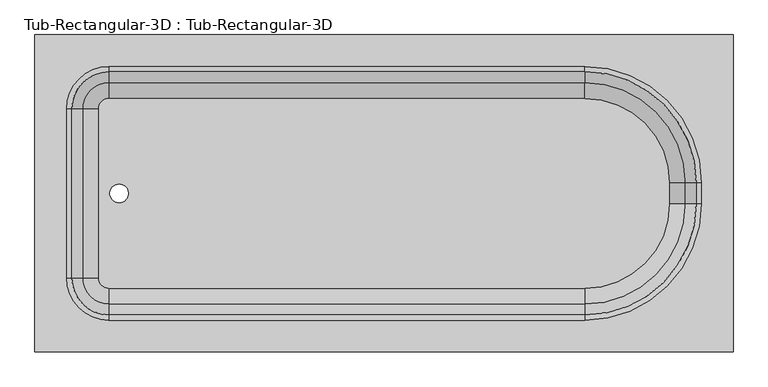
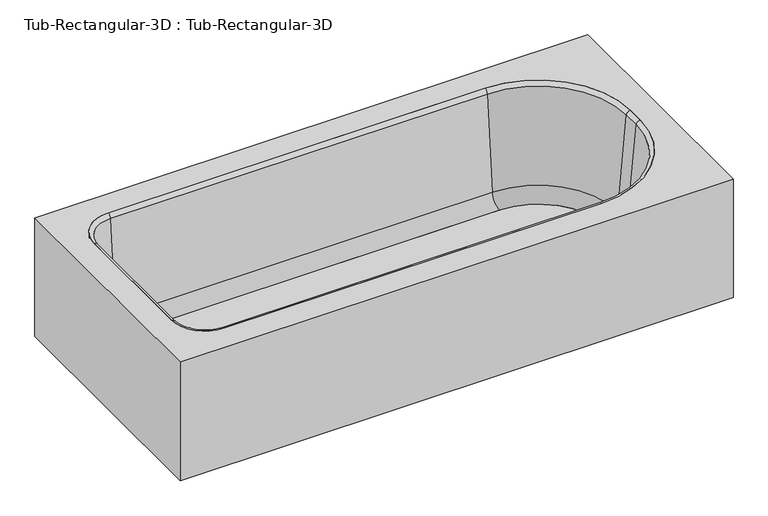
"""IFC4 building model written with IfcOpenShell, lengths in millimetres: flow terminal geometry, Tub-Rectangular-3D : Tub-Rectangular-3D."""

import ifcopenshell
import ifcopenshell.guid

model = None  # the IFC model being written
_history = None  # IfcOwnerHistory: only IFC2X3 demands one
_inside = {}  # id of a spatial element -> (the spatial element, [elements in it])
_under = {}  # id of a project, library or spatial element -> (it, [spatial elements below it])
_declared = {}  # id of a project -> (the project, [libraries it declares])
_typed = {}  # id of a type object -> (the type object, [elements of that type])
_made_of = {}  # id of a material, layer set ... -> (it, [elements and type objects made of it])


def new_model(schema):
    """Start an empty IFC model of exactly this schema.

    Asked for "IFC4X3", IfcOpenShell would pick the latest addendum, in which some entities
    have other attributes; the version numbers below select the first issue.
    IFC2X3 requires an IfcOwnerHistory on every rooted entity: one is made here for all.
    """
    global model, _history
    if schema == "IFC4X3":
        model = ifcopenshell.file(schema_version=(4, 3, 0, 0))
    else:
        model = ifcopenshell.file(schema=schema)
    _inside.clear()
    _under.clear()
    _declared.clear()
    _typed.clear()
    _made_of.clear()
    _history = None
    if model.schema == "IFC2X3":
        org = make("IfcOrganization", Name="unknown")
        user = make(
            "IfcPersonAndOrganization",
            ThePerson=make("IfcPerson", FamilyName="unknown"),
            TheOrganization=org,
        )
        app = make(
            "IfcApplication",
            ApplicationDeveloper=org,
            Version="unknown",
            ApplicationFullName="unknown",
            ApplicationIdentifier="unknown",
        )
        _history = make(
            "IfcOwnerHistory",
            OwningUser=user,
            OwningApplication=app,
            ChangeAction="ADDED",
            CreationDate=0,
        )
    return model


def make(cls, **values):
    """One entity of the class cls with the attributes given. An attribute that is None is left unset."""
    return model.create_entity(
        cls, **{name: value for name, value in values.items() if value is not None}
    )


def rooted(cls, **values):
    """An entity with a GlobalId (a new one), such as an element, a storey or a relation."""
    return make(cls, GlobalId=ifcopenshell.guid.new(), OwnerHistory=_history, **values)


def si_unit(unit_type, name, prefix=None):
    """IfcSIUnit, for example si_unit("LENGTHUNIT", "METRE", prefix="MILLI")."""
    return make("IfcSIUnit", UnitType=unit_type, Prefix=prefix, Name=name)


def assignment(units):
    """IfcUnitAssignment: the units of a project."""
    return None if units is None else make("IfcUnitAssignment", Units=units)


def point(xyz):
    """IfcCartesianPoint."""
    return None if xyz is None else make("IfcCartesianPoint", Coordinates=xyz)


def direction(xyz):
    """IfcDirection."""
    return None if xyz is None else make("IfcDirection", DirectionRatios=xyz)


def frame(location, z_axis=None, x_axis=None):
    """IfcAxis2Placement3D, a coordinate frame: its origin and axes. An axis left out is left unset."""
    return make(
        "IfcAxis2Placement3D",
        Location=point(location),
        Axis=direction(z_axis),
        RefDirection=direction(x_axis),
    )


def frame_2d(location, x_axis=None):
    """IfcAxis2Placement2D, a coordinate frame in the plane: its origin and x axis."""
    return make(
        "IfcAxis2Placement2D", Location=point(location), RefDirection=direction(x_axis)
    )


def origin():
    """The frame at (0, 0, 0) with its axes left unset."""
    return frame((0.0, 0.0, 0.0))


def place(relative_to, where):
    """IfcLocalPlacement: puts the frame where relative to a parent placement (None: the world)."""
    return make(
        "IfcLocalPlacement", PlacementRelTo=relative_to, RelativePlacement=where
    )


def context(
    kind, dimensions, precision=None, world=None, true_north=None, identifier=None
):
    """IfcGeometricRepresentationContext, for example the 3D "Model" context."""
    return make(
        "IfcGeometricRepresentationContext",
        ContextIdentifier=identifier,
        ContextType=kind,
        CoordinateSpaceDimension=dimensions,
        Precision=precision,
        WorldCoordinateSystem=world,
        TrueNorth=true_north,
    )


def project(units=None, contexts=None):
    """IfcProject with its units and contexts."""
    return rooted(
        "IfcProject",
        Name="project",
        RepresentationContexts=contexts,
        UnitsInContext=assignment(units),
    )


def spatial(cls, under=None, at=None, **own):
    """A site, building, storey or space (cls), placed at a placement, below another one or the project."""
    s = rooted(cls, ObjectPlacement=at, **own)
    if under is not None:
        _under.setdefault(under.id(), (under, []))[1].append(s)
    return s


def polyline(points):
    """IfcPolyline through the points."""
    return make("IfcPolyline", Points=[point(p) for p in points])


def circle_curve(where, radius):
    """IfcCircle in the frame where."""
    return make("IfcCircle", Position=where, Radius=radius)


def ellipse_curve(where, semi_axis1, semi_axis2):
    """IfcEllipse in the frame where."""
    return make(
        "IfcEllipse", Position=where, SemiAxis1=semi_axis1, SemiAxis2=semi_axis2
    )


def trimmed(basis, trim1, trim2, sense, master):
    """IfcTrimmedCurve: the piece of a basis curve between two trims."""
    return make(
        "IfcTrimmedCurve",
        BasisCurve=basis,
        Trim1=trim1,
        Trim2=trim2,
        SenseAgreement=sense,
        MasterRepresentation=master,
    )


def segment(curve, same_sense, transition):
    """IfcCompositeCurveSegment."""
    return make(
        "IfcCompositeCurveSegment",
        Transition=transition,
        SameSense=same_sense,
        ParentCurve=curve,
    )


def composite_curve(segments, self_intersect=None):
    """IfcCompositeCurve: segments joined end to end."""
    return make("IfcCompositeCurve", Segments=segments, SelfIntersect=self_intersect)


def outline(outer, holes=None, kind="AREA"):
    """IfcArbitraryClosedProfileDef: a profile drawn as a closed curve; with holes, ...WithVoids."""
    if holes is None:
        return make("IfcArbitraryClosedProfileDef", ProfileType=kind, OuterCurve=outer)
    return make(
        "IfcArbitraryProfileDefWithVoids",
        ProfileType=kind,
        OuterCurve=outer,
        InnerCurves=holes,
    )


def extrude(swept, where, along, depth):
    """IfcExtrudedAreaSolid: the profile swept, set in the frame where, extruded along a direction by depth."""
    return make(
        "IfcExtrudedAreaSolid",
        SweptArea=swept,
        Position=where,
        ExtrudedDirection=direction(along),
        Depth=depth,
    )


def shape(context_of_items, identifier, shape_type, items):
    """IfcShapeRepresentation: the items that make up one representation, for example the "Body"."""
    return make(
        "IfcShapeRepresentation",
        ContextOfItems=context_of_items,
        RepresentationIdentifier=identifier,
        RepresentationType=shape_type,
        Items=items,
    )


def source(mapping_origin, context_of_items, identifier, shape_type, items):
    """IfcRepresentationMap: a shape defined once, which mapped items show again and again."""
    return make(
        "IfcRepresentationMap",
        MappingOrigin=mapping_origin,
        MappedRepresentation=shape(context_of_items, identifier, shape_type, items),
    )


def transform(
    local_origin,
    x_axis=None,
    y_axis=None,
    z_axis=None,
    scale=None,
    scale2=None,
    scale3=None,
    uniform=True,
):
    """IfcCartesianTransformationOperator3D, or its non-uniform kind. x_axis, y_axis, z_axis: its Axis1, 2, 3."""
    if uniform:
        return make(
            "IfcCartesianTransformationOperator3D",
            Axis1=direction(x_axis),
            Axis2=direction(y_axis),
            LocalOrigin=point(local_origin),
            Scale=scale,
            Axis3=direction(z_axis),
        )
    return make(
        "IfcCartesianTransformationOperator3DnonUniform",
        Axis1=direction(x_axis),
        Axis2=direction(y_axis),
        LocalOrigin=point(local_origin),
        Scale=scale,
        Axis3=direction(z_axis),
        Scale2=scale2,
        Scale3=scale3,
    )


def mapped(mapping_source, mapping_target):
    """IfcMappedItem: shows the shape of a source again, moved by a transform."""
    return make(
        "IfcMappedItem", MappingSource=mapping_source, MappingTarget=mapping_target
    )


def made_of(thing, what):
    """Note that an element or type object is made of a material, layer set ...; save() writes the relation."""
    if what is not None:
        _made_of.setdefault(what.id(), (what, []))[1].append(thing)
    return thing


def element(
    cls,
    number,
    at=None,
    inside=None,
    cuts=None,
    type_object=None,
    material=None,
    context=None,
    identifier="Body",
    shape_type=None,
    held_by="IfcProductDefinitionShape",
    body=None,
    shapes=None,
    **own,
):
    """One element of the class cls, such as IfcWall. Its Tag is "e" and its number.

    at: its placement. inside: the storey or other place that contains it. cuts: it is an
    opening in that element (IfcRelVoidsElement). A single representation is given by context,
    identifier, shape_type and body (its items); several are given by shapes. held_by: the class
    of the entity that holds the representations. save() writes the other relations.
    """
    e = rooted(cls, Tag="e%d" % number, ObjectPlacement=at, **own)
    if body is not None:
        shapes = [shape(context, identifier, shape_type, body)]
    if shapes is not None:
        e.Representation = make(held_by, Representations=shapes)
    if inside is not None:
        _inside.setdefault(inside.id(), (inside, []))[1].append(e)
    if cuts is not None:
        rooted(
            "IfcRelVoidsElement", RelatingBuildingElement=cuts, RelatedOpeningElement=e
        )
    if type_object is not None:
        _typed.setdefault(type_object.id(), (type_object, []))[1].append(e)
    return made_of(e, material)


def aggregate(whole, parts):
    """IfcRelAggregates: a whole, such as a stair, and the parts it consists of."""
    return rooted("IfcRelAggregates", RelatingObject=whole, RelatedObjects=parts)


def save(model, path):
    """Write the relations noted so far, then the file.

    IfcRelAggregates (storeys below a building ...), IfcRelContainedInSpatialStructure (elements
    in a storey), IfcRelDefinesByType, IfcRelAssociatesMaterial and IfcRelDeclares: one each for
    every whole, place, type object, material and project.
    """
    for whole, parts in _under.values():
        aggregate(whole, parts)
    for where, things in _inside.values():
        rooted(
            "IfcRelContainedInSpatialStructure",
            RelatedElements=things,
            RelatingStructure=where,
        )
    for kind, things in _typed.values():
        rooted("IfcRelDefinesByType", RelatedObjects=things, RelatingType=kind)
    for what, things in _made_of.values():
        rooted("IfcRelAssociatesMaterial", RelatedObjects=things, RelatingMaterial=what)
    for by, libraries in _declared.values():
        rooted("IfcRelDeclares", RelatingContext=by, RelatedDefinitions=libraries)
    model.write(path)


def plane_surface(at):
    """IfcPlane: the flat surface through the origin of the frame at, square to its z axis."""
    return make("IfcPlane", Position=at)


def cylinder_surface(at, radius):
    """IfcCylindricalSurface: all points at the distance radius from the z axis of the frame at."""
    return make("IfcCylindricalSurface", Position=at, Radius=radius)


def revolved_surface(curve, axis_point, axis_direction):
    """IfcSurfaceOfRevolution: the curve turned about the line through axis_point along axis_direction."""
    return make(
        "IfcSurfaceOfRevolution",
        SweptCurve=make("IfcArbitraryOpenProfileDef", ProfileType="CURVE", Curve=curve),
        AxisPosition=make("IfcAxis1Placement", Location=point(axis_point), Axis=direction(axis_direction)),
    )


def advanced_brep(points, edges, surfaces, faces):
    """IfcAdvancedBrep: a solid bounded by faces that lie on surfaces and meet in shared edges.

    An edge is (start, end): straight between two places in points (the first is 0);
    or (start, end, curve); or (start, end, curve, False) where it runs against its curve.
    A face is (place in surfaces, loops), or (place, loops, False) where it looks against
    its surface's normal. A loop lists edges by number (the first is 1), with a minus sign
    where the edge is run from its end to its start. The first loop is the outer one.
    """
    corners = [point(p) for p in points]
    vertices = [make("IfcVertexPoint", VertexGeometry=c) for c in corners]
    made = []
    for start, end, *more in edges:
        made.append(
            make(
                "IfcEdgeCurve",
                EdgeStart=vertices[start],
                EdgeEnd=vertices[end],
                EdgeGeometry=more[0] if more else make("IfcPolyline", Points=[corners[start], corners[end]]),
                SameSense=more[1] if len(more) > 1 else True,
            )
        )
    hull = []
    for where, loops, *sense in faces:
        bounds = []
        for j, loop in enumerate(loops):
            ring = [make("IfcOrientedEdge", EdgeElement=made[abs(k) - 1], Orientation=k > 0) for k in loop]
            bounds.append(
                make(
                    "IfcFaceOuterBound" if j == 0 else "IfcFaceBound",
                    Bound=make("IfcEdgeLoop", EdgeList=ring),
                    Orientation=True,
                )
            )
        hull.append(make("IfcAdvancedFace", Bounds=bounds, FaceSurface=surfaces[where], SameSense=sense[0] if sense else True))
    return make("IfcAdvancedBrep", Outer=make("IfcClosedShell", CfsFaces=hull))


def tub_rectangular_3d_tub_rectangular_3d_d1c8eb0f(model_context):
    return source(origin(), model_context, "Body", "SolidModel", [
        advanced_brep(
        [(413.3970313, 762.0, 381.0), (-1263.0029687, 762.0, 381.0), (-1263.0029687, 0.0, 381.0), (413.3970313, 0.0, 381.0), (-1085.2029687, 685.8, 381.0), (57.7970313, 685.8, 381.0), (337.1970313, 406.4, 381.0), (337.1970313, 355.6, 381.0), (57.7970313, 76.2, 381.0), (-1085.2029687, 76.2, 381.0), (-1186.8029687, 177.8, 381.0), (-1186.8029687, 584.2, 381.0), (394.3470313, 742.95, 361.95), (394.3470313, 19.05, 361.95), (-1243.9529687, 19.05, 361.95), (-1243.9529687, 742.95, 361.95), (-1085.2029687, 685.8, 361.95), (-1186.8029687, 584.2, 361.95), (-1186.8029687, 177.8, 361.95), (-1085.2029687, 76.2, 361.95), (57.7970313, 76.2, 361.95), (337.1970313, 355.6, 361.95), (337.1970313, 406.4, 361.95), (57.7970313, 685.8, 361.95), (413.3970313, 762.0, 0.0), (-1263.0029687, 762.0, 0.0), (-1263.0029687, 0.0, 0.0), (413.3970313, 0.0, 0.0), (394.3470313, 742.95, 0.0), (-1243.9529687, 742.95, 0.0), (-1243.9529687, 19.05, 0.0), (394.3470313, 19.05, 0.0)],
        [
            (0, 1),
            (1, 2),
            (2, 3),
            (3, 0),
            (4, 5),
            (5, 6, circle_curve(frame((57.7970313, 406.4, 381.0), z_axis=(0.0, 0.0, -1.0), x_axis=(0.0, 1.0, 0.0)), 279.4)),
            (6, 7),
            (7, 8, circle_curve(frame((57.7970313, 355.6, 381.0), z_axis=(0.0, 0.0, -1.0), x_axis=(0.0, 1.0, 0.0)), 279.4)),
            (8, 9),
            (9, 10, circle_curve(frame((-1085.2029687, 177.8, 381.0), z_axis=(0.0, 0.0, -1.0), x_axis=(0.0, 1.0, 0.0)), 101.6)),
            (10, 11),
            (11, 4, circle_curve(frame((-1085.2029687, 584.2, 381.0), z_axis=(0.0, 0.0, -1.0), x_axis=(0.0, 1.0, 0.0)), 101.6)),
            (12, 13),
            (13, 14),
            (14, 15),
            (15, 12),
            (16, 17, circle_curve(frame((-1085.2029687, 584.2, 361.95), z_axis=(0.0, 0.0, 1.0), x_axis=(0.0, 1.0, 0.0)), 101.6)),
            (17, 18),
            (18, 19, circle_curve(frame((-1085.2029687, 177.8, 361.95), z_axis=(0.0, 0.0, 1.0), x_axis=(0.0, 1.0, 0.0)), 101.6)),
            (19, 20),
            (20, 21, circle_curve(frame((57.7970313, 355.6, 361.95), z_axis=(0.0, 0.0, 1.0), x_axis=(0.0, 1.0, 0.0)), 279.4)),
            (21, 22),
            (22, 23, circle_curve(frame((57.7970313, 406.4, 361.95), z_axis=(0.0, 0.0, 1.0), x_axis=(0.0, 1.0, 0.0)), 279.4)),
            (23, 16),
            (0, 24),
            (24, 25),
            (25, 1),
            (25, 26),
            (26, 2),
            (26, 27),
            (27, 3),
            (27, 24),
            (4, 16),
            (23, 5),
            (22, 6),
            (21, 7),
            (20, 8),
            (19, 9),
            (18, 10),
            (17, 11),
            (28, 29),
            (29, 30),
            (30, 31),
            (31, 28),
            (31, 13),
            (12, 28),
            (30, 14),
            (29, 15),
        ],
        [
            plane_surface(frame((-1263.0029687, 762.0, 381.0), z_axis=(0.0, 0.0, 1.0), x_axis=(-1.0, 0.0, 0.0))),
            plane_surface(frame((-1263.0029687, 762.0, 361.95), z_axis=(0.0, 0.0, -1.0), x_axis=(1.0, 0.0, 0.0))),
            plane_surface(frame((413.3970313, 762.0, 381.0), z_axis=(0.0, 1.0, 0.0), x_axis=(0.0, 0.0, -1.0))),
            plane_surface(frame((-1263.0029687, 762.0, 381.0), z_axis=(-1.0, 0.0, 0.0), x_axis=(0.0, 0.0, -1.0))),
            plane_surface(frame((-1263.0029687, 0.0, 381.0), z_axis=(0.0, -1.0, 0.0), x_axis=(0.0, 0.0, -1.0))),
            plane_surface(frame((413.3970313, 0.0, 381.0), z_axis=(1.0, 0.0, 0.0), x_axis=(0.0, 0.0, -1.0))),
            plane_surface(frame((-1085.2029687, 685.8, 381.0), z_axis=(0.0, -1.0, 0.0), x_axis=(0.0, 0.0, -1.0))),
            revolved_surface(polyline([(57.7970313, 685.8, 361.95), (57.7970313, 685.8, 381.0)]), (57.7970313, 406.4, 381.0), (0.0, 0.0, -1.0)),
            plane_surface(frame((337.1970313, 406.4, 381.0), z_axis=(-1.0, 0.0, 0.0), x_axis=(0.0, 0.0, -1.0))),
            revolved_surface(polyline([(57.7970313, 635.0, 361.95), (57.7970313, 635.0, 381.0)]), (57.7970313, 355.6, 381.0), (0.0, 0.0, -1.0)),
            plane_surface(frame((57.7970313, 76.2, 381.0), z_axis=(0.0, 1.0, 0.0), x_axis=(0.0, 0.0, -1.0))),
            revolved_surface(polyline([(-1085.2029687, 279.4, 361.95), (-1085.2029687, 279.4, 381.0)]), (-1085.2029687, 177.8, 381.0), (0.0, 0.0, -1.0)),
            plane_surface(frame((-1186.8029687, 177.8, 381.0), z_axis=(1.0, 0.0, 0.0), x_axis=(0.0, 0.0, -1.0))),
            revolved_surface(polyline([(-1085.2029687, 685.8000000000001, 361.95), (-1085.2029687, 685.8000000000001, 381.0)]), (-1085.2029687, 584.2, 381.0), (0.0, 0.0, -1.0)),
            plane_surface(frame((-1263.0029687, 762.0, 0.0), z_axis=(0.0, 0.0, -1.0), x_axis=(1.0, 0.0, 0.0))),
            plane_surface(frame((394.3470313, 742.95, 361.95), z_axis=(-1.0, 0.0, 0.0), x_axis=(0.0, 0.0, -1.0))),
            plane_surface(frame((394.3470313, 19.05, 361.95), z_axis=(0.0, 1.0, 0.0), x_axis=(0.0, 0.0, -1.0))),
            plane_surface(frame((-1243.9529687, 19.05, 361.95), z_axis=(1.0, 0.0, 0.0), x_axis=(0.0, 0.0, -1.0))),
            plane_surface(frame((-1243.9529687, 742.95, 361.95), z_axis=(0.0, -1.0, 0.0), x_axis=(0.0, 0.0, -1.0))),
        ],
        [
            (0, [[1, 2, 3, 4], [5, 6, 7, 8, 9, 10, 11, 12]]),
            (1, [[13, 14, 15, 16], [17, 18, 19, 20, 21, 22, 23, 24]]),
            (2, [[-1, 25, 26, 27]]),
            (3, [[-2, -27, 28, 29]]),
            (4, [[-3, -29, 30, 31]]),
            (5, [[-25, -4, -31, 32]]),
            (6, [[-5, 33, -24, 34]]),
            (7, [[-6, -34, -23, 35]]),
            (8, [[-7, -35, -22, 36]]),
            (9, [[-8, -36, -21, 37]]),
            (10, [[-9, -37, -20, 38]]),
            (11, [[-10, -38, -19, 39]]),
            (12, [[-11, -39, -18, 40]]),
            (13, [[-12, -40, -17, -33]]),
            (14, [[-32, -30, -28, -26], [41, 42, 43, 44]]),
            (15, [[-44, 45, -13, 46]]),
            (16, [[-43, 47, -14, -45]]),
            (17, [[-42, 48, -15, -47]]),
            (18, [[-41, -46, -16, -48]]),
        ],
    ),
        extrude(outline(composite_curve([segment(trimmed(circle_curve(frame_2d((57.7970313, 406.4)), 202.7964741), [point((57.7970313, 609.1964741))], [point((260.5935054, 406.4))], False, "CARTESIAN"), True, "CONTINUOUS"), segment(polyline([(260.5935054, 406.4), (260.5935054, 355.6)]), True, "CONTINUOUS"), segment(trimmed(circle_curve(frame_2d((57.7970313, 355.6)), 202.7964741), [point((260.5935054, 355.6))], [point((57.7970313, 152.8035259))], False, "CARTESIAN"), True, "CONTINUOUS"), segment(polyline([(57.7970313, 152.8035259), (-1085.2029687, 152.8035259)]), True, "CONTINUOUS"), segment(trimmed(circle_curve(frame_2d((-1085.2029687, 177.8)), 24.9964741), [point((-1085.2029687, 152.8035259))], [point((-1110.1994428, 177.8))], False, "CARTESIAN"), True, "CONTINUOUS"), segment(polyline([(-1110.1994428, 177.8), (-1110.1994428, 584.2)]), True, "CONTINUOUS"), segment(trimmed(circle_curve(frame_2d((-1085.2029687, 584.2)), 24.9964741), [point((-1110.1994428, 584.2))], [point((-1085.2029687, 609.1964741))], False, "CARTESIAN"), True, "CONTINUOUS"), segment(polyline([(-1085.2029687, 609.1964741), (57.7970313, 609.1964741)]), True, "CONTINUOUS")], self_intersect=False), holes=[composite_curve([segment(trimmed(circle_curve(frame_2d((-1060.910206, 381.0)), 22.225), [point((-1060.910206, 403.225))], [point((-1060.910206, 358.775))], True, "CARTESIAN"), True, "CONTINUOUS"), segment(trimmed(circle_curve(frame_2d((-1060.910206, 381.0)), 22.225), [point((-1060.910206, 358.775))], [point((-1060.910206, 403.225))], True, "CARTESIAN"), True, "CONTINUOUS")], self_intersect=False)]), frame((0.0, 0.0, 16.863573), z_axis=(0.0, 0.0, 1.0), x_axis=(1.0, 0.0, 0.0)), (0.0, 0.0, 1.0), 19.05),
        advanced_brep(
        [(-1148.1544608, 584.2, 70.6929392), (-1085.2029687, 647.1514921, 70.6929392), (-1085.2029687, 673.3220035, 369.8232535), (-1174.3249722, 584.2, 369.8232535), (-1110.1994428, 584.2, 35.913573), (-1085.2029687, 609.1964741, 35.913573), (-1110.1994428, 584.2, 16.863573), (-1085.2029687, 609.1964741, 16.863573), (-1186.8029687, 584.2, 16.863573), (-1085.2029687, 685.8, 16.863573), (-1186.8029687, 584.2, 381.0), (-1085.2029687, 685.8, 381.0), (-1174.3249722, 177.8, 369.8232535), (-1148.1544608, 177.8, 70.6929392), (-1110.1994428, 177.8, 35.913573), (-1110.1994428, 177.8, 16.863573), (-1186.8029687, 177.8, 16.863573), (-1186.8029687, 177.8, 381.0), (-1085.2029687, 114.8485079, 70.6929392), (-1085.2029687, 88.6779965, 369.8232535), (-1085.2029687, 152.8035259, 35.913573), (-1085.2029687, 152.8035259, 16.863573), (-1085.2029687, 76.2, 16.863573), (-1085.2029687, 76.2, 381.0), (57.7970313, 88.6779965, 369.8232535), (57.7970313, 114.8485079, 70.6929392), (57.7970313, 152.8035259, 35.913573), (57.7970313, 152.8035259, 16.863573), (57.7970313, 76.2, 16.863573), (57.7970313, 76.2, 381.0), (298.5485234, 355.6, 70.6929392), (324.7190348, 355.6, 369.8232535), (260.5935054, 355.6, 35.913573), (260.5935054, 355.6, 16.863573), (337.1970313, 355.6, 16.863573), (337.1970313, 355.6, 381.0), (324.7190348, 406.4, 369.8232535), (298.5485234, 406.4, 70.6929392), (260.5935054, 406.4, 35.913573), (260.5935054, 406.4, 16.863573), (337.1970313, 406.4, 16.863573), (337.1970313, 406.4, 381.0), (57.7970313, 647.1514921, 70.6929392), (57.7970313, 673.3220035, 369.8232535), (57.7970313, 609.1964741, 35.913573), (57.7970313, 609.1964741, 16.863573), (57.7970313, 685.8, 16.863573), (57.7970313, 685.8, 381.0)],
        [
            (0, 1, circle_curve(frame((-1085.2029687, 584.2, 70.6929392), z_axis=(0.0, 0.0, -1.0), x_axis=(0.0, 1.0, 0.0)), 62.9514921)),
            (1, 2),
            (2, 3, circle_curve(frame((-1085.2029687, 584.2, 369.8232535), z_axis=(0.0, 0.0, 1.0), x_axis=(0.0, 1.0, 0.0)), 89.1220035)),
            (3, 0),
            (4, 5, circle_curve(frame((-1085.2029687, 584.2, 35.913573), z_axis=(0.0, 0.0, -1.0), x_axis=(0.0, 1.0, 0.0)), 24.9964741)),
            (5, 1, circle_curve(frame((-1085.2029687, 609.1964741, 74.013573), z_axis=(1.0, 0.0, 0.0), x_axis=(0.0, -1.0, 0.0)), 38.1)),
            (0, 4, circle_curve(frame((-1110.1994428, 584.2, 74.013573), z_axis=(0.0, -1.0, 0.0), x_axis=(1.0, 0.0, 0.0)), 38.1)),
            (6, 7, circle_curve(frame((-1085.2029687, 584.2, 16.863573), z_axis=(0.0, 0.0, -1.0), x_axis=(0.0, 1.0, 0.0)), 24.9964741)),
            (7, 5),
            (4, 6),
            (8, 9, circle_curve(frame((-1085.2029687, 584.2, 16.863573), z_axis=(0.0, 0.0, -1.0), x_axis=(0.0, 1.0, 0.0)), 101.6)),
            (9, 7),
            (6, 8),
            (10, 11, circle_curve(frame((-1085.2029687, 584.2, 381.0), z_axis=(0.0, 0.0, -1.0), x_axis=(0.0, 1.0, 0.0)), 101.6)),
            (11, 9),
            (8, 10),
            (2, 11, circle_curve(frame((-1085.2029687, 685.8, 368.4462547), z_axis=(-1.0, 0.0, 0.0), x_axis=(0.0, -1.0, 0.0)), 12.5537453)),
            (10, 3, circle_curve(frame((-1186.8029687, 584.2, 368.4462547), z_axis=(0.0, 1.0, 0.0), x_axis=(1.0, 0.0, 0.0)), 12.5537453)),
            (3, 12),
            (12, 13),
            (13, 0),
            (13, 14, circle_curve(frame((-1110.1994428, 177.8, 74.013573), z_axis=(0.0, -1.0, 0.0), x_axis=(1.0, 0.0, 0.0)), 38.1)),
            (14, 4),
            (14, 15),
            (15, 6),
            (15, 16),
            (16, 8),
            (16, 17),
            (17, 10),
            (17, 12, circle_curve(frame((-1186.8029687, 177.8, 368.4462547), z_axis=(0.0, 1.0, 0.0), x_axis=(1.0, 0.0, 0.0)), 12.5537453)),
            (18, 13, circle_curve(frame((-1085.2029687, 177.8, 70.6929392), z_axis=(0.0, 0.0, -1.0), x_axis=(-1.0, 0.0, 0.0)), 62.9514921)),
            (12, 19, circle_curve(frame((-1085.2029687, 177.8, 369.8232535), z_axis=(0.0, 0.0, 1.0), x_axis=(-1.0, 0.0, 0.0)), 89.1220035)),
            (19, 18),
            (20, 14, circle_curve(frame((-1085.2029687, 177.8, 35.913573), z_axis=(0.0, 0.0, -1.0), x_axis=(-1.0, 0.0, 0.0)), 24.9964741)),
            (18, 20, circle_curve(frame((-1085.2029687, 152.8035259, 74.013573), z_axis=(1.0, 0.0, 0.0), x_axis=(0.0, 1.0, 0.0)), 38.1)),
            (21, 15, circle_curve(frame((-1085.2029687, 177.8, 16.863573), z_axis=(0.0, 0.0, -1.0), x_axis=(-1.0, 0.0, 0.0)), 24.9964741)),
            (20, 21),
            (22, 16, circle_curve(frame((-1085.2029687, 177.8, 16.863573), z_axis=(0.0, 0.0, -1.0), x_axis=(-1.0, 0.0, 0.0)), 101.6)),
            (21, 22),
            (23, 17, circle_curve(frame((-1085.2029687, 177.8, 381.0), z_axis=(0.0, 0.0, -1.0), x_axis=(-1.0, 0.0, 0.0)), 101.6)),
            (22, 23),
            (23, 19, circle_curve(frame((-1085.2029687, 76.2, 368.4462547), z_axis=(-1.0, 0.0, 0.0), x_axis=(0.0, 1.0, 0.0)), 12.5537453)),
            (19, 24),
            (24, 25),
            (25, 18),
            (25, 26, circle_curve(frame((57.7970313, 152.8035259, 74.013573), z_axis=(1.0, 0.0, 0.0), x_axis=(0.0, 1.0, 0.0)), 38.1)),
            (26, 20),
            (26, 27),
            (27, 21),
            (27, 28),
            (28, 22),
            (28, 29),
            (29, 23),
            (29, 24, circle_curve(frame((57.7970313, 76.2, 368.4462547), z_axis=(-1.0, 0.0, 0.0), x_axis=(0.0, 1.0, 0.0)), 12.5537453)),
            (30, 25, circle_curve(frame((57.7970313, 355.6, 70.6929392), z_axis=(0.0, 0.0, -1.0), x_axis=(0.0, -1.0, 0.0)), 240.7514921)),
            (24, 31, circle_curve(frame((57.7970313, 355.6, 369.8232535), z_axis=(0.0, 0.0, 1.0), x_axis=(0.0, -1.0, 0.0)), 266.9220035)),
            (31, 30),
            (32, 26, circle_curve(frame((57.7970313, 355.6, 35.913573), z_axis=(0.0, 0.0, -1.0), x_axis=(0.0, -1.0, 0.0)), 202.7964741)),
            (30, 32, circle_curve(frame((260.5935054, 355.6, 74.013573), z_axis=(0.0, 1.0, 0.0), x_axis=(-1.0, 0.0, 0.0)), 38.1)),
            (33, 27, circle_curve(frame((57.7970313, 355.6, 16.863573), z_axis=(0.0, 0.0, -1.0), x_axis=(0.0, -1.0, 0.0)), 202.7964741)),
            (32, 33),
            (34, 28, circle_curve(frame((57.7970313, 355.6, 16.863573), z_axis=(0.0, 0.0, -1.0), x_axis=(0.0, -1.0, 0.0)), 279.4)),
            (33, 34),
            (35, 29, circle_curve(frame((57.7970313, 355.6, 381.0), z_axis=(0.0, 0.0, -1.0), x_axis=(0.0, -1.0, 0.0)), 279.4)),
            (34, 35),
            (35, 31, circle_curve(frame((337.1970313, 355.6, 368.4462547), z_axis=(0.0, -1.0, 0.0), x_axis=(-1.0, 0.0, 0.0)), 12.5537453)),
            (31, 36),
            (36, 37),
            (37, 30),
            (37, 38, circle_curve(frame((260.5935054, 406.4, 74.013573), z_axis=(0.0, 1.0, 0.0), x_axis=(-1.0, 0.0, 0.0)), 38.1)),
            (38, 32),
            (38, 39),
            (39, 33),
            (39, 40),
            (40, 34),
            (40, 41),
            (41, 35),
            (41, 36, circle_curve(frame((337.1970313, 406.4, 368.4462547), z_axis=(0.0, -1.0, 0.0), x_axis=(-1.0, 0.0, 0.0)), 12.5537453)),
            (42, 37, circle_curve(frame((57.7970313, 406.4, 70.6929392), z_axis=(0.0, 0.0, -1.0), x_axis=(1.0, 0.0, 0.0)), 240.7514921)),
            (36, 43, circle_curve(frame((57.7970313, 406.4, 369.8232535), z_axis=(0.0, 0.0, 1.0), x_axis=(1.0, 0.0, 0.0)), 266.9220035)),
            (43, 42),
            (44, 38, circle_curve(frame((57.7970313, 406.4, 35.913573), z_axis=(0.0, 0.0, -1.0), x_axis=(1.0, 0.0, 0.0)), 202.7964741)),
            (42, 44, circle_curve(frame((57.7970313, 609.1964741, 74.013573), z_axis=(-1.0, 0.0, 0.0), x_axis=(0.0, -1.0, 0.0)), 38.1)),
            (45, 39, circle_curve(frame((57.7970313, 406.4, 16.863573), z_axis=(0.0, 0.0, -1.0), x_axis=(1.0, 0.0, 0.0)), 202.7964741)),
            (44, 45),
            (46, 40, circle_curve(frame((57.7970313, 406.4, 16.863573), z_axis=(0.0, 0.0, -1.0), x_axis=(1.0, 0.0, 0.0)), 279.4)),
            (45, 46),
            (47, 41, circle_curve(frame((57.7970313, 406.4, 381.0), z_axis=(0.0, 0.0, -1.0), x_axis=(1.0, 0.0, 0.0)), 279.4)),
            (46, 47),
            (47, 43, circle_curve(frame((57.7970313, 685.8, 368.4462547), z_axis=(1.0, 0.0, 0.0), x_axis=(0.0, -1.0, 0.0)), 12.5537453)),
            (43, 2),
            (1, 42),
            (5, 44),
            (7, 45),
            (9, 46),
            (11, 47),
        ],
        [
            revolved_surface(polyline([(-1085.2029687, 673.3220035, 369.8232535), (-1085.2029687, 647.1514921, 70.6929392)]), (-1085.2029687, 584.2, 381.0), (0.0, 0.0, 1.0)),
            revolved_surface(trimmed(ellipse_curve(frame((-1085.2029687, 609.1964741, 74.013573), z_axis=(-1.0, 0.0, 0.0), x_axis=(0.0, -1.0, 0.0)), 38.1, 38.1), [point((-1085.2029687, 647.1514921, 70.6929392))], [point((-1085.2029687, 609.1964741, 35.913573))], True, "CARTESIAN"), (-1085.2029687, 584.2, 381.0), (0.0, 0.0, 1.0)),
            revolved_surface(polyline([(-1085.2029687, 609.1964741, 35.913572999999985), (-1085.2029687, 609.1964741, 16.863572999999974)]), (-1085.2029687, 584.2, 381.0), (0.0, 0.0, 1.0)),
            plane_surface(frame((-1085.2029687, 584.2, 16.863573), z_axis=(0.0, 0.0, -1.0), x_axis=(0.0, 1.0, 0.0))),
            cylinder_surface(frame((-1085.2029687, 584.2, 381.0), z_axis=(0.0, 0.0, 1.0), x_axis=(0.0, 1.0, 0.0)), 101.6),
            revolved_surface(trimmed(ellipse_curve(frame((-1085.2029687, 685.8, 368.4462547), z_axis=(1.0, 0.0, 0.0), x_axis=(0.0, -1.0, 0.0)), 12.5537453, 12.5537453), [point((-1085.2029687, 685.8, 381.0))], [point((-1085.2029687, 673.3220035, 369.8232535))], True, "CARTESIAN"), (-1085.2029687, 584.2, 381.0), (0.0, 0.0, 1.0)),
            plane_surface(frame((-1174.3249722, 584.2, 369.8232535), z_axis=(0.9961946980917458, 0.0, 0.08715574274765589), x_axis=(0.0, -1.0, 0.0))),
            revolved_surface(polyline([(-1072.0994428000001, 177.8, 74.013573), (-1072.0994428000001, 584.2, 74.013573)]), (-1110.1994428, 584.2, 74.013573), (0.0, -1.0, 0.0)),
            plane_surface(frame((-1110.1994428, 584.2, 35.913573), z_axis=(1.0, 0.0, 0.0), x_axis=(0.0, -1.0, 0.0))),
            plane_surface(frame((-1110.1994428, 584.2, 16.863573), z_axis=(0.0, 0.0, -1.0), x_axis=(0.0, -1.0, 0.0))),
            plane_surface(frame((-1186.8029687, 584.2, 16.863573), z_axis=(-1.0, 0.0, 0.0), x_axis=(0.0, -1.0, 0.0))),
            cylinder_surface(frame((-1186.8029687, 584.2, 368.4462547), z_axis=(0.0, 1.0, 0.0), x_axis=(1.0, 0.0, 0.0)), 12.5537453),
            revolved_surface(polyline([(-1174.3249722, 177.8, 369.8232535), (-1148.1544608, 177.8, 70.6929392)]), (-1085.2029687, 177.8, 381.0), (0.0, 0.0, 1.0)),
            revolved_surface(trimmed(ellipse_curve(frame((-1110.1994428, 177.8, 74.013573), z_axis=(0.0, -1.0, 0.0), x_axis=(1.0, 0.0, 0.0)), 38.1, 38.1), [point((-1148.1544608, 177.8, 70.6929392))], [point((-1110.1994428, 177.8, 35.913573))], True, "CARTESIAN"), (-1085.2029687, 177.8, 381.0), (0.0, 0.0, 1.0)),
            revolved_surface(polyline([(-1110.1994427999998, 177.8, 35.913572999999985), (-1110.1994427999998, 177.8, 16.863572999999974)]), (-1085.2029687, 177.8, 381.0), (0.0, 0.0, 1.0)),
            plane_surface(frame((-1085.2029687, 177.8, 16.863573), z_axis=(0.0, 0.0, -1.0), x_axis=(-1.0, 0.0, 0.0))),
            cylinder_surface(frame((-1085.2029687, 177.8, 381.0), z_axis=(0.0, 0.0, 1.0), x_axis=(-1.0, 0.0, 0.0)), 101.6),
            revolved_surface(trimmed(ellipse_curve(frame((-1186.8029687, 177.8, 368.4462547), z_axis=(0.0, 1.0, 0.0), x_axis=(1.0, 0.0, 0.0)), 12.5537453, 12.5537453), [point((-1186.8029687, 177.8, 381.0))], [point((-1174.3249722, 177.8, 369.8232535))], True, "CARTESIAN"), (-1085.2029687, 177.8, 381.0), (0.0, 0.0, 1.0)),
            plane_surface(frame((-1085.2029687, 88.6779965, 369.8232535), z_axis=(0.0, 0.9961946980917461, 0.08715574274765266), x_axis=(1.0, 0.0, 0.0))),
            revolved_surface(polyline([(57.79703130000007, 190.9035259, 74.013573), (-1085.2029687, 190.9035259, 74.013573)]), (-1085.2029687, 152.8035259, 74.013573), (1.0, 0.0, 0.0)),
            plane_surface(frame((-1085.2029687, 152.8035259, 35.913573), z_axis=(0.0, 1.0, 0.0), x_axis=(1.0, 0.0, 0.0))),
            plane_surface(frame((-1085.2029687, 152.8035259, 16.863573), z_axis=(0.0, 0.0, -1.0), x_axis=(1.0, 0.0, 0.0))),
            plane_surface(frame((-1085.2029687, 76.2, 16.863573), z_axis=(0.0, -1.0, 0.0), x_axis=(1.0, 0.0, 0.0))),
            cylinder_surface(frame((-1085.2029687, 76.2, 368.4462547), z_axis=(-1.0, 0.0, 0.0), x_axis=(0.0, 1.0, 0.0)), 12.5537453),
            revolved_surface(polyline([(57.7970313, 88.6779965, 369.8232535), (57.7970313, 114.8485079, 70.6929392)]), (57.7970313, 355.6, 381.0), (0.0, 0.0, 1.0)),
            revolved_surface(trimmed(ellipse_curve(frame((57.7970313, 152.8035259, 74.013573), z_axis=(1.0, 0.0, 0.0), x_axis=(0.0, 1.0, 0.0)), 38.1, 38.1), [point((57.7970313, 114.8485079, 70.6929392))], [point((57.7970313, 152.8035259, 35.913573))], True, "CARTESIAN"), (57.7970313, 355.6, 381.0), (0.0, 0.0, 1.0)),
            revolved_surface(polyline([(57.7970313, 152.8035259, 35.913572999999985), (57.7970313, 152.8035259, 16.863572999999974)]), (57.7970313, 355.6, 381.0), (0.0, 0.0, 1.0)),
            plane_surface(frame((57.7970313, 355.6, 16.863573), z_axis=(0.0, 0.0, -1.0), x_axis=(0.0, -1.0, 0.0))),
            cylinder_surface(frame((57.7970313, 355.6, 381.0), z_axis=(0.0, 0.0, 1.0), x_axis=(0.0, -1.0, 0.0)), 279.4),
            revolved_surface(trimmed(ellipse_curve(frame((57.7970313, 76.2, 368.4462547), z_axis=(-1.0, 0.0, 0.0), x_axis=(0.0, 1.0, 0.0)), 12.5537453, 12.5537453), [point((57.7970313, 76.2, 381.0))], [point((57.7970313, 88.6779965, 369.8232535))], True, "CARTESIAN"), (57.7970313, 355.6, 381.0), (0.0, 0.0, 1.0)),
            plane_surface(frame((324.7190348, 355.6, 369.8232535), z_axis=(-0.9961946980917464, 0.0, 0.08715574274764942), x_axis=(0.0, 1.0, 0.0))),
            revolved_surface(polyline([(222.49350540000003, 406.4, 74.013573), (222.49350540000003, 355.6, 74.013573)]), (260.5935054, 355.6, 74.013573), (0.0, 1.0, 0.0)),
            plane_surface(frame((260.5935054, 355.6, 35.913573), z_axis=(-1.0, 0.0, 0.0), x_axis=(0.0, 1.0, 0.0))),
            plane_surface(frame((260.5935054, 355.6, 16.863573), z_axis=(0.0, 0.0, -1.0), x_axis=(0.0, 1.0, 0.0))),
            plane_surface(frame((337.1970313, 355.6, 16.863573), z_axis=(1.0, 0.0, 0.0), x_axis=(0.0, 1.0, 0.0))),
            cylinder_surface(frame((337.1970313, 355.6, 368.4462547), z_axis=(0.0, -1.0, 0.0), x_axis=(-1.0, 0.0, 0.0)), 12.5537453),
            revolved_surface(polyline([(324.7190348, 406.4, 369.8232535), (298.5485234, 406.4, 70.6929392)]), (57.7970313, 406.4, 381.0), (0.0, 0.0, 1.0)),
            revolved_surface(trimmed(ellipse_curve(frame((260.5935054, 406.4, 74.013573), z_axis=(0.0, 1.0, 0.0), x_axis=(-1.0, 0.0, 0.0)), 38.1, 38.1), [point((298.5485234, 406.4, 70.6929392))], [point((260.5935054, 406.4, 35.913573))], True, "CARTESIAN"), (57.7970313, 406.4, 381.0), (0.0, 0.0, 1.0)),
            revolved_surface(polyline([(260.5935054, 406.4, 35.913572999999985), (260.5935054, 406.4, 16.863572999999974)]), (57.7970313, 406.4, 381.0), (0.0, 0.0, 1.0)),
            plane_surface(frame((57.7970313, 406.4, 16.863573), z_axis=(0.0, 0.0, -1.0), x_axis=(1.0, 0.0, 0.0))),
            cylinder_surface(frame((57.7970313, 406.4, 381.0), z_axis=(0.0, 0.0, 1.0), x_axis=(1.0, 0.0, 0.0)), 279.4),
            revolved_surface(trimmed(ellipse_curve(frame((337.1970313, 406.4, 368.4462547), z_axis=(0.0, -1.0, 0.0), x_axis=(-1.0, 0.0, 0.0)), 12.5537453, 12.5537453), [point((337.1970313, 406.4, 381.0))], [point((324.7190348, 406.4, 369.8232535))], True, "CARTESIAN"), (57.7970313, 406.4, 381.0), (0.0, 0.0, 1.0)),
            plane_surface(frame((57.7970313, 673.3220035, 369.8232535), z_axis=(0.0, -0.9961946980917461, 0.08715574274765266), x_axis=(-1.0, 0.0, 0.0))),
            revolved_surface(polyline([(-1085.2029687, 571.0964741, 74.013573), (57.7970313, 571.0964741, 74.013573)]), (57.7970313, 609.1964741, 74.013573), (-1.0, 0.0, 0.0)),
            plane_surface(frame((57.7970313, 609.1964741, 35.913573), z_axis=(0.0, -1.0, 0.0), x_axis=(-1.0, 0.0, 0.0))),
            plane_surface(frame((57.7970313, 609.1964741, 16.863573), z_axis=(0.0, 0.0, -1.0), x_axis=(-1.0, 0.0, 0.0))),
            plane_surface(frame((57.7970313, 685.8, 16.863573), z_axis=(0.0, 1.0, 0.0), x_axis=(-1.0, 0.0, 0.0))),
            cylinder_surface(frame((57.7970313, 685.8, 368.4462547), z_axis=(1.0, 0.0, 0.0), x_axis=(0.0, -1.0, 0.0)), 12.5537453),
        ],
        [
            (0, [[1, 2, 3, 4]]),
            (1, [[5, 6, -1, 7]]),
            (2, [[8, 9, -5, 10]]),
            (3, [[11, 12, -8, 13]]),
            (4, [[14, 15, -11, 16]]),
            (5, [[-3, 17, -14, 18]]),
            (6, [[-4, 19, 20, 21]]),
            (7, [[-7, -21, 22, 23]]),
            (8, [[-10, -23, 24, 25]]),
            (9, [[-13, -25, 26, 27]]),
            (10, [[-16, -27, 28, 29]]),
            (11, [[-18, -29, 30, -19]]),
            (12, [[31, -20, 32, 33]]),
            (13, [[34, -22, -31, 35]]),
            (14, [[36, -24, -34, 37]]),
            (15, [[38, -26, -36, 39]]),
            (16, [[40, -28, -38, 41]]),
            (17, [[-32, -30, -40, 42]]),
            (18, [[-33, 43, 44, 45]]),
            (19, [[-35, -45, 46, 47]]),
            (20, [[-37, -47, 48, 49]]),
            (21, [[-39, -49, 50, 51]]),
            (22, [[-41, -51, 52, 53]]),
            (23, [[-42, -53, 54, -43]]),
            (24, [[55, -44, 56, 57]]),
            (25, [[58, -46, -55, 59]]),
            (26, [[60, -48, -58, 61]]),
            (27, [[62, -50, -60, 63]]),
            (28, [[64, -52, -62, 65]]),
            (29, [[-56, -54, -64, 66]]),
            (30, [[-57, 67, 68, 69]]),
            (31, [[-59, -69, 70, 71]]),
            (32, [[-61, -71, 72, 73]]),
            (33, [[-63, -73, 74, 75]]),
            (34, [[-65, -75, 76, 77]]),
            (35, [[-66, -77, 78, -67]]),
            (36, [[79, -68, 80, 81]]),
            (37, [[82, -70, -79, 83]]),
            (38, [[84, -72, -82, 85]]),
            (39, [[86, -74, -84, 87]]),
            (40, [[88, -76, -86, 89]]),
            (41, [[-80, -78, -88, 90]]),
            (42, [[-81, 91, -2, 92]]),
            (43, [[-83, -92, -6, 93]]),
            (44, [[-85, -93, -9, 94]]),
            (45, [[-87, -94, -12, 95]]),
            (46, [[-89, -95, -15, 96]]),
            (47, [[-90, -96, -17, -91]]),
        ],
    ),
    ])


if __name__ == "__main__":
    model = new_model("IFC4")
    model_context = context("Model", 3, world=origin())
    ifc_project = project(units=[si_unit("LENGTHUNIT", "METRE", prefix="MILLI")], contexts=[model_context])
    site = spatial("IfcSite", under=ifc_project)
    building = spatial("IfcBuilding", under=site)
    placement = place(None, origin())
    tub_rectangular_3d_tub_rectangular_3d_shape = tub_rectangular_3d_tub_rectangular_3d_d1c8eb0f(model_context)
    element("IfcFlowTerminal", 1, ObjectType="Tub-Rectangular-3D : Tub-Rectangular-3D", at=placement, inside=building, context=model_context, shape_type="MappedRepresentation", body=[
        mapped(tub_rectangular_3d_tub_rectangular_3d_shape, transform((0.0, 0.0, 0.0), x_axis=(1.0, 0.0, 0.0), y_axis=(0.0, 1.0, 0.0), z_axis=(0.0, 0.0, 1.0))),
    ])
    save(model, "model.ifc")
